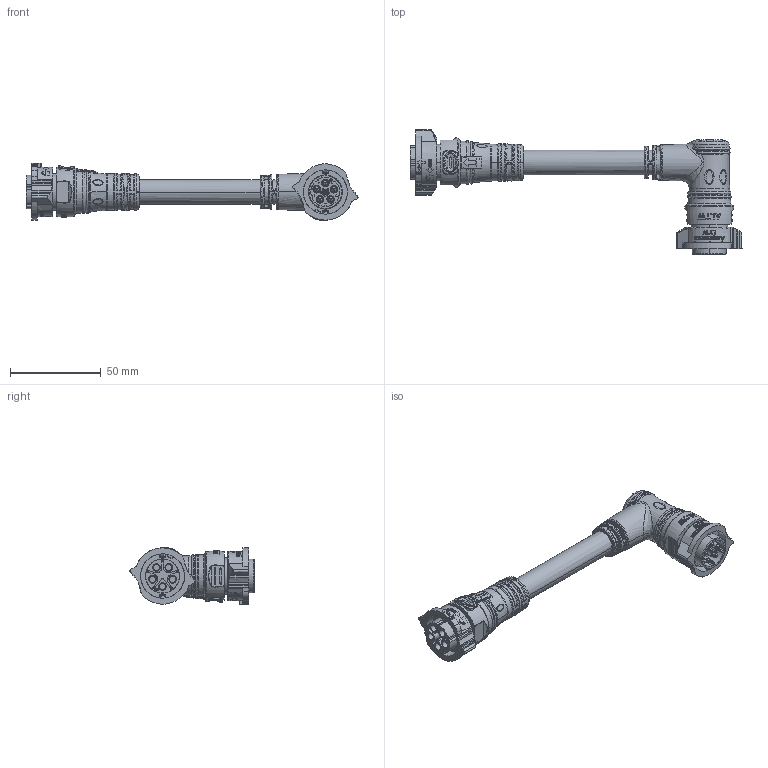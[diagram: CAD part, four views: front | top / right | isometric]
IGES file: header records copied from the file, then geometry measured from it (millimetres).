
Start section:  PTC IGES file: ab-dcxxfl-dcbr-qexxx_sw0001.igs
Global section: file name: ab-dcxxfl-dcbr-qexxx_sw0001.igs; native system: Creo Parametric by Parametric Technology Corporation; preprocessor: 2017170; author: L100003; organization: Unknown; date: 20200207.095557; units: millimetre
Bounding box: 183.05 x 68.45 x 31.6 mm (x, y, z)
Volume: 67213.4 mm3; surface area: 26003.5 mm2
Topology: 1 solids, 1 shells, 2096 faces, 5624 edges, 3663 vertices
Faces by surface type: bspline 1080, revolution 580, extrusion 436
